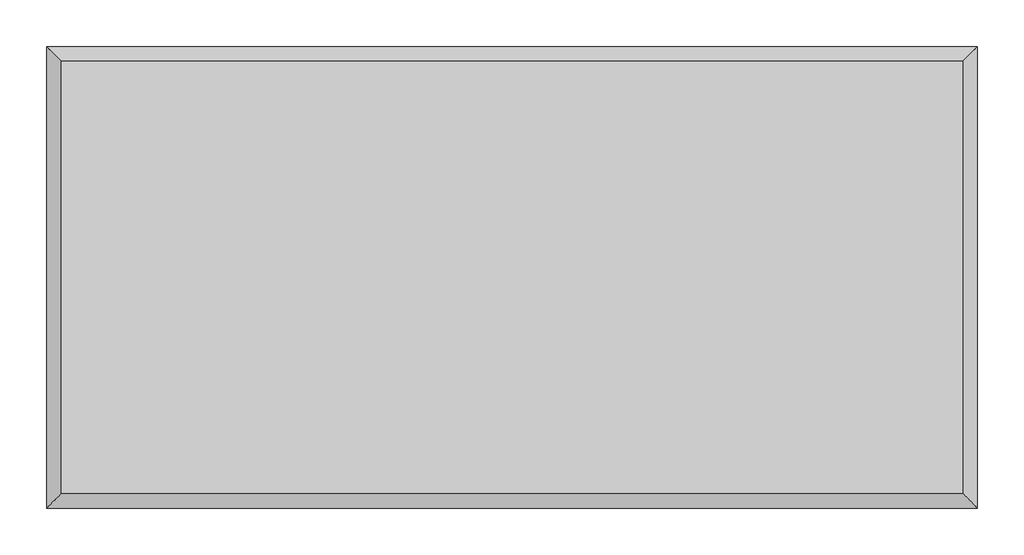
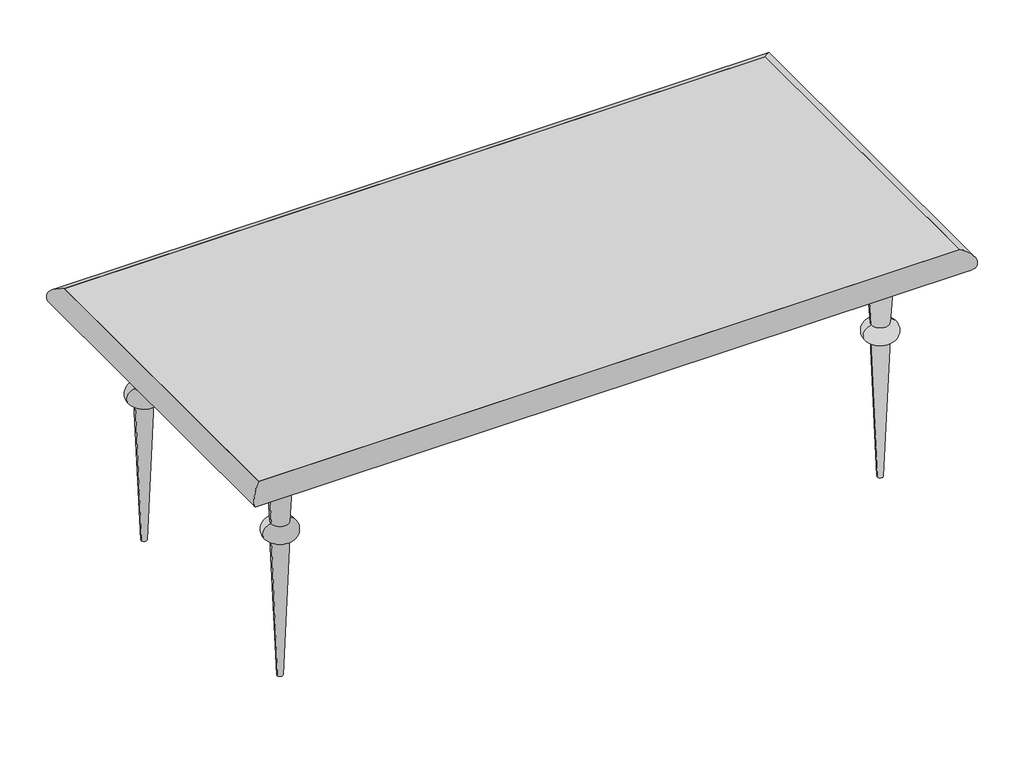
# One storey, incomplete: 1 furniture element.
"""IFC4 building model written with IfcOpenShell, lengths in millimetres."""

from ifc_helpers import new_model, si_unit, origin, place, context, project, spatial, transform, mapped, element, save
from components import furniture_11c9c1f6

model = new_model("IFC4")

# Units and contexts
model_context = context("Model", 3, world=origin())
ifc_project = project(units=[si_unit("LENGTHUNIT", "METRE", prefix="MILLI")], contexts=[model_context])

# Site, building, storey
site = spatial("IfcSite", under=ifc_project)
building = spatial("IfcBuilding", under=site)
storey = spatial("IfcBuildingStorey", under=building, Name="Уровень 1", Elevation=0.0)

# Furniture
placement = place(None, origin())
furniture_shape = furniture_11c9c1f6(model_context)
element("IfcFurniture", 1, ObjectType="1.Стол_Начало : 1.Стол_Начало", at=placement, inside=storey, context=model_context, shape_type="MappedRepresentation", body=[
    mapped(furniture_shape, transform((-790.2072767, 1329.0058465, 0.0), x_axis=(1.0, 0.0, 0.0), y_axis=(0.0, 1.0, 0.0), z_axis=(0.0, 0.0, 1.0))),
])

save(model, "model.ifc")
